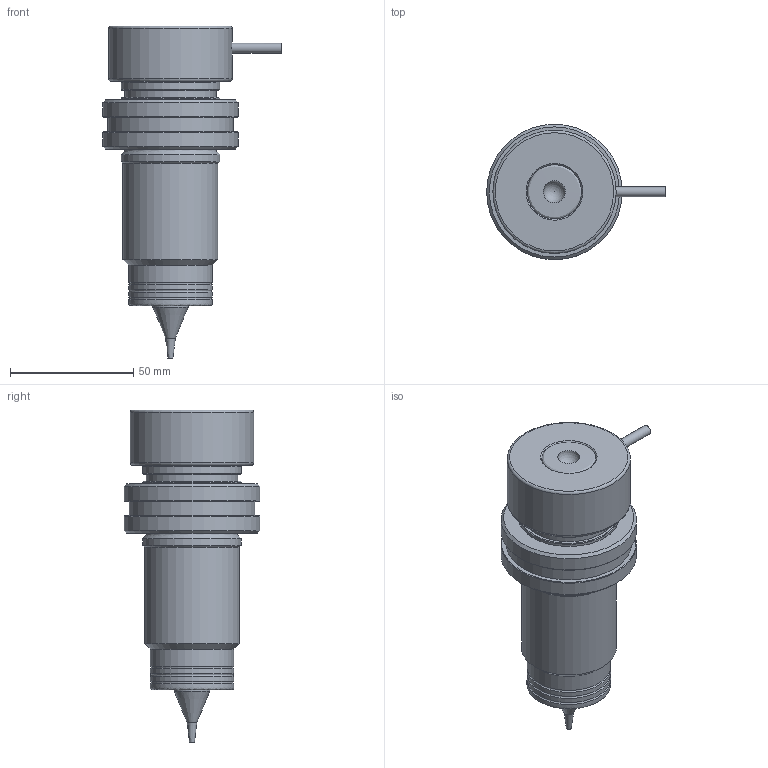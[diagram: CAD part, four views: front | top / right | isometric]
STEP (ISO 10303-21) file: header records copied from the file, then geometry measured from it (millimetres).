
FILE_DESCRIPTION(('STEP AP214'),'1');
FILE_NAME('IPM1000-A.stp','2018-06-13T07:18:14',(' '),(' '),'Spatial InterOp 3D',' ',' ');
FILE_SCHEMA(('AUTOMOTIVE_DESIGN { 1 0 10303 214 1 1 1 1 }'));
Length unit declared in the file: millimetre
Products named in the file (1): 1
Bounding box: 72.5 x 55 x 134.7 mm (x, y, z)
Volume: 138944.8 mm3; surface area: 46100.2 mm2
Topology: 4 solids, 4 shells, 88 faces, 168 edges, 99 vertices
Faces by surface type: cylinder 27, cone 23, plane 21, torus 9, revolution 7, sphere 1
Full cylindrical faces by diameter (mm): 4 x1, 6 x1, 6.55 x1, 9.1 x1, 9.5 x1, 9.51 x1, 14.5 x1, 14.52 x1, 22 x1, 30 x2, 34 x3, 35 x1, 37 x1, 38.5 x1, 39.4 x1, 40 x5, 50 x1, 51 x1, 55 x2
Entity records: 2818 total; most frequent: CARTESIAN_POINT 571, DIRECTION 347, ORIENTED_EDGE 188, EDGE_LOOP 170, AXIS2_PLACEMENT_3D 169, FACE_OUTER_BOUND 129, EDGE_CURVE 94, VERTEX_POINT 91
